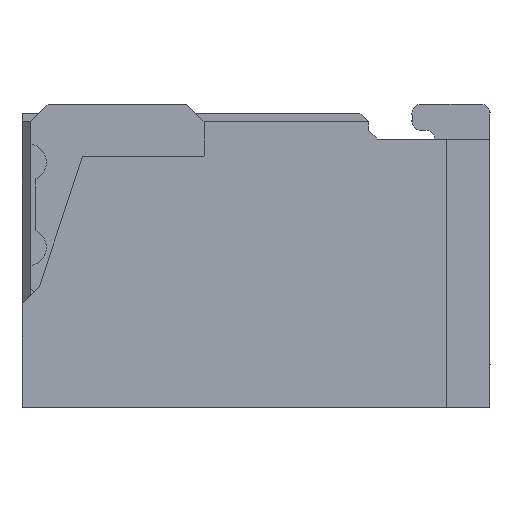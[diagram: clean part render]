
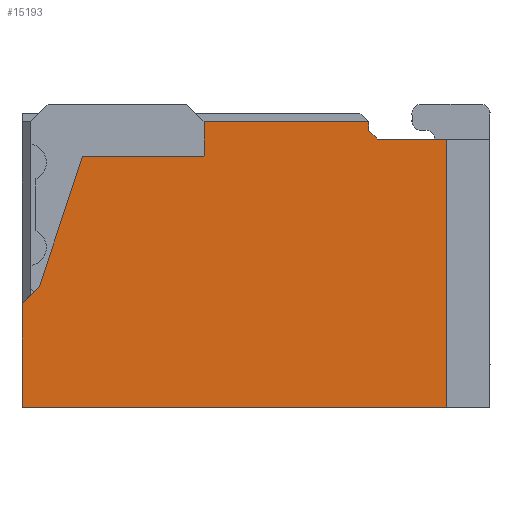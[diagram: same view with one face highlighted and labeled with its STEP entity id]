
A CAD part, left-side view. The second image highlights one B-rep face of the part: STEP entity #15193.
In plain terms, the highlighted planar face has unit normal (-1, 0, 0).
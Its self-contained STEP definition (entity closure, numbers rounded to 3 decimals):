
#1=DIRECTION('',(0.,-1.,0.));
#2=VECTOR('',#1,2.45);
#3=CARTESIAN_POINT('',(0.,2.7,-1.7));
#4=LINE('',#3,#2);
#5=DIRECTION('',(0.,-0.707,0.707));
#6=VECTOR('',#5,0.141);
#7=CARTESIAN_POINT('',(0.,2.7,-1.1));
#8=LINE('',#7,#6);
#9=DIRECTION('',(0.,-0.316,0.949));
#10=VECTOR('',#9,0.791);
#11=CARTESIAN_POINT('',(0.,2.6,-1.));
#12=LINE('',#11,#10);
#13=DIRECTION('',(0.,-1.,0.));
#14=VECTOR('',#13,0.7);
#15=CARTESIAN_POINT('',(0.,2.35,-0.25));
#16=LINE('',#15,#14);
#17=DIRECTION('',(0.,0.,1.));
#18=VECTOR('',#17,0.2);
#19=CARTESIAN_POINT('',(0.,1.65,-0.25));
#20=LINE('',#19,#18);
#21=DIRECTION('',(0.,-0.707,-0.707));
#22=VECTOR('',#21,0.071);
#23=CARTESIAN_POINT('',(0.,0.7,-0.1));
#24=LINE('',#23,#22);
#25=DIRECTION('',(0.,-1.,0.));
#26=VECTOR('',#25,0.4);
#27=CARTESIAN_POINT('',(0.,0.65,-0.15));
#28=LINE('',#27,#26);
#33=DIRECTION('',(0.,0.,1.));
#34=VECTOR('',#33,1.55);
#35=CARTESIAN_POINT('',(0.,0.25,-1.7));
#36=LINE('',#35,#34);
#4988=DIRECTION('',(0.,0.,-1.));
#4989=VECTOR('',#4988,0.6);
#4990=CARTESIAN_POINT('',(0.,2.7,-1.1));
#4991=LINE('',#4990,#4989);
#8038=DIRECTION('',(0.,0.,1.));
#8039=VECTOR('',#8038,0.05);
#8040=CARTESIAN_POINT('',(0.,0.7,-0.1));
#8041=LINE('',#8040,#8039);
#8624=DIRECTION('',(0.,1.,0.));
#8625=VECTOR('',#8624,0.95);
#8626=CARTESIAN_POINT('',(0.,0.7,-0.05));
#8627=LINE('',#8626,#8625);
#11666=CARTESIAN_POINT('',(0.,0.7,-0.05));
#11667=CARTESIAN_POINT('',(0.,1.65,-0.05));
#11668=VERTEX_POINT('',#11666);
#11669=VERTEX_POINT('',#11667);
#11670=CARTESIAN_POINT('',(0.,0.7,-0.1));
#11671=VERTEX_POINT('',#11670);
#11672=CARTESIAN_POINT('',(0.,0.65,-0.15));
#11673=VERTEX_POINT('',#11672);
#11674=CARTESIAN_POINT('',(0.,0.25,-0.15));
#11675=VERTEX_POINT('',#11674);
#11676=CARTESIAN_POINT('',(0.,2.7,-1.1));
#11677=CARTESIAN_POINT('',(0.,2.6,-1.));
#11678=VERTEX_POINT('',#11676);
#11679=VERTEX_POINT('',#11677);
#11680=CARTESIAN_POINT('',(0.,2.35,-0.25));
#11681=VERTEX_POINT('',#11680);
#11682=CARTESIAN_POINT('',(0.,1.65,-0.25));
#11683=VERTEX_POINT('',#11682);
#15148=CARTESIAN_POINT('',(0.,2.7,-1.7));
#15149=CARTESIAN_POINT('',(0.,0.25,-1.7));
#15150=VERTEX_POINT('',#15148);
#15151=VERTEX_POINT('',#15149);
#15164=CARTESIAN_POINT('',(0.,0.,0.));
#15165=DIRECTION('',(1.,0.,0.));
#15166=DIRECTION('',(0.,-1.,0.));
#15167=AXIS2_PLACEMENT_3D('',#15164,#15165,#15166);
#15168=PLANE('',#15167);
#15170=ORIENTED_EDGE('',*,*,#15169,.F.);
#15172=ORIENTED_EDGE('',*,*,#15171,.F.);
#15174=ORIENTED_EDGE('',*,*,#15173,.T.);
#15176=ORIENTED_EDGE('',*,*,#15175,.T.);
#15178=ORIENTED_EDGE('',*,*,#15177,.T.);
#15180=ORIENTED_EDGE('',*,*,#15179,.T.);
#15182=ORIENTED_EDGE('',*,*,#15181,.F.);
#15184=ORIENTED_EDGE('',*,*,#15183,.F.);
#15186=ORIENTED_EDGE('',*,*,#15185,.T.);
#15188=ORIENTED_EDGE('',*,*,#15187,.T.);
#15190=ORIENTED_EDGE('',*,*,#15189,.F.);
#15191=EDGE_LOOP('',(#15170,#15172,#15174,#15176,#15178,#15180,#15182,#15184,
#15186,#15188,#15190));
#15192=FACE_OUTER_BOUND('',#15191,.F.);
#15193=ADVANCED_FACE('',(#15192),#15168,.F.);
#15169=EDGE_CURVE('',#15150,#15151,#4,.T.);
#15171=EDGE_CURVE('',#11678,#15150,#4991,.T.);
#15173=EDGE_CURVE('',#11678,#11679,#8,.T.);
#15175=EDGE_CURVE('',#11679,#11681,#12,.T.);
#15177=EDGE_CURVE('',#11681,#11683,#16,.T.);
#15179=EDGE_CURVE('',#11683,#11669,#20,.T.);
#15181=EDGE_CURVE('',#11668,#11669,#8627,.T.);
#15183=EDGE_CURVE('',#11671,#11668,#8041,.T.);
#15185=EDGE_CURVE('',#11671,#11673,#24,.T.);
#15187=EDGE_CURVE('',#11673,#11675,#28,.T.);
#15189=EDGE_CURVE('',#15151,#11675,#36,.T.);
